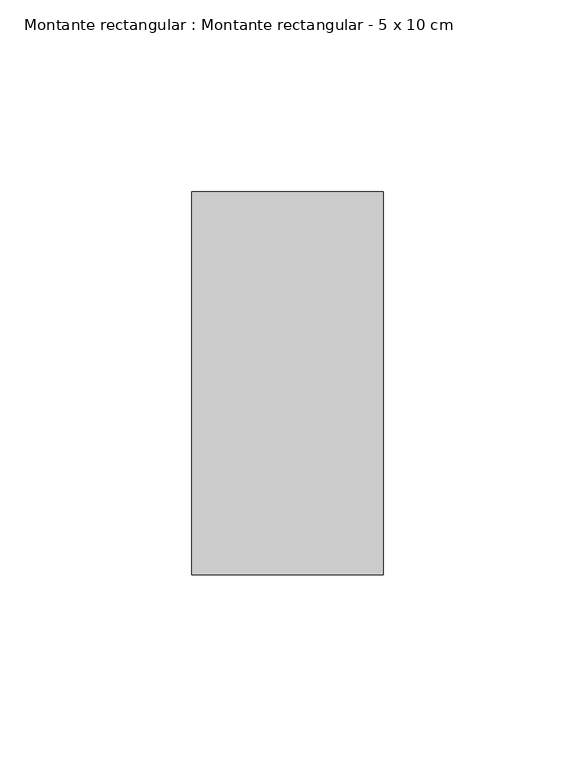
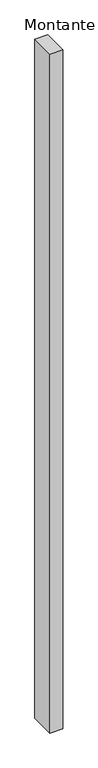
"""IFC4 building model written with IfcOpenShell, lengths in millimetres: member geometry, Montante rectangular : Montante rectangular - 5 x 10 cm."""

from ifc_helpers import new_model, si_unit, frame, origin, place, context, project, spatial, polyline, outline, extrude, source, transform, mapped, element, save


def montante_rectangular_montante_rectangular_5_x_10_cm_6a43661d(model_context):
    return source(origin(), model_context, "Body", "SweptSolid", [
        extrude(outline(polyline([(-50.0, 50.0), (0.0, 50.0), (0.0, -50.0), (-50.0, -50.0), (-50.0, 50.0)])), frame((0.0, 0.0, -2778.4348306), z_axis=(0.0, 0.0, 1.0), x_axis=(1.0, 0.0, 0.0)), (0.0, 0.0, 1.0), 2778.4348306),
    ])


if __name__ == "__main__":
    model = new_model("IFC4")
    model_context = context("Model", 3, world=origin())
    ifc_project = project(units=[si_unit("LENGTHUNIT", "METRE", prefix="MILLI")], contexts=[model_context])
    site = spatial("IfcSite", under=ifc_project)
    building = spatial("IfcBuilding", under=site)
    placement = place(None, origin())
    montante_rectangular_montante_rectangular_5_x_10_cm_shape = montante_rectangular_montante_rectangular_5_x_10_cm_6a43661d(model_context)
    element("IfcMember", 1, ObjectType="Montante rectangular : Montante rectangular - 5 x 10 cm", at=placement, inside=building, context=model_context, shape_type="MappedRepresentation", body=[
        mapped(montante_rectangular_montante_rectangular_5_x_10_cm_shape, transform((0.0, 0.0, 0.0), x_axis=(1.0, 0.0, 0.0), y_axis=(0.0, 1.0, 0.0), z_axis=(0.0, 0.0, 1.0))),
    ])
    save(model, "model.ifc")
